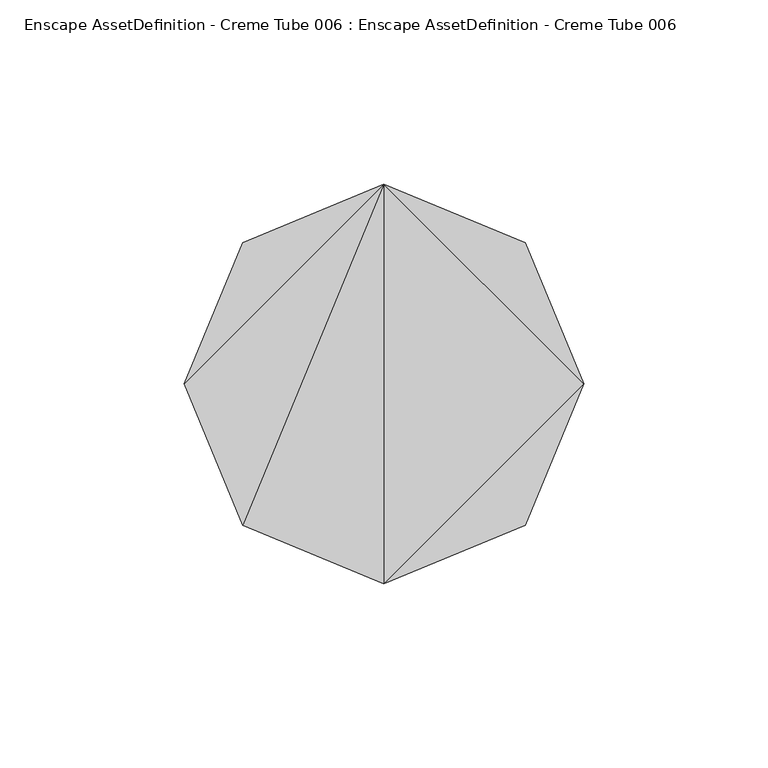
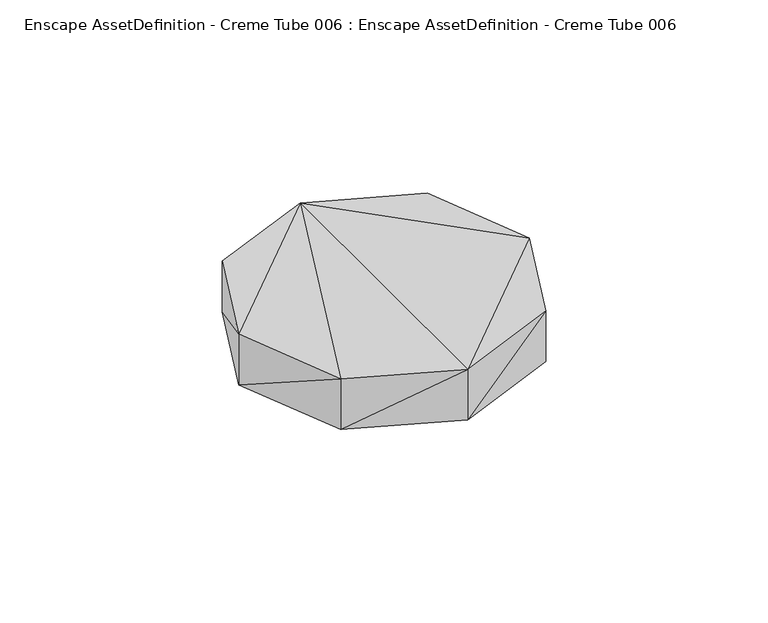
"""IFC4 building model written with IfcOpenShell, lengths in millimetres: geographic element geometry, Enscape AssetDefinition - Creme Tube 006 : Enscape AssetDefinition - Creme Tube 006."""

from ifc_helpers import new_model, si_unit, origin, place, context, project, spatial, faceted_brep, source, transform, mapped, element, save


def enscape_assetdefinition_creme_tube_006_enscape_deb4efeb(model_context):
    return source(origin(), model_context, "Body", "Brep", [
        faceted_brep([(38.2760018, 38.2760018, 20.5979999), (38.2760018, 38.2760018, 0.598), (0.0, 54.1299991, 20.5979999), (0.0, 54.1299991, 0.598), (54.1299991, 0.0, 0.598), (54.1299991, 0.0, 20.5979999), (-54.1299991, 0.0, 0.598), (0.0, -54.1299991, 0.598), (38.2760018, -38.2760018, 0.598), (-38.2760018, 38.2760018, 0.598), (-38.2760018, 38.2760018, 20.5979999), (-54.1299991, 0.0, 20.5979999), (-38.2760018, -38.2760018, 20.5979999), (-38.2760018, -38.2760018, 0.598), (0.0, -54.1299991, 20.5979999), (38.2760018, -38.2760018, 20.5979999)], [[[0, 1, 2]], [[2, 1, 3]], [[0, 4, 1]], [[4, 3, 1]], [[5, 4, 0]], [[2, 5, 0]], [[6, 4, 7]], [[5, 8, 4]], [[4, 6, 9]], [[4, 9, 3]], [[7, 4, 8]], [[2, 3, 10]], [[10, 3, 9]], [[10, 9, 11]], [[11, 9, 6]], [[11, 6, 12]], [[12, 6, 13]], [[6, 7, 13]], [[11, 2, 10]], [[2, 11, 12]], [[12, 13, 14]], [[2, 12, 14]], [[14, 13, 7]], [[14, 7, 15]], [[2, 14, 5]], [[5, 14, 15]], [[15, 8, 5]], [[15, 7, 8]]]),
    ])


if __name__ == "__main__":
    model = new_model("IFC4")
    model_context = context("Model", 3, world=origin())
    ifc_project = project(units=[si_unit("LENGTHUNIT", "METRE", prefix="MILLI")], contexts=[model_context])
    site = spatial("IfcSite", under=ifc_project)
    building = spatial("IfcBuilding", under=site)
    placement = place(None, origin())
    enscape_assetdefinition_creme_tube_006_enscape_shape = enscape_assetdefinition_creme_tube_006_enscape_deb4efeb(model_context)
    element("IfcGeographicElement", 1, ObjectType="Enscape AssetDefinition - Creme Tube 006 : Enscape AssetDefinition - Creme Tube 006", at=placement, inside=building, context=model_context, shape_type="MappedRepresentation", body=[
        mapped(enscape_assetdefinition_creme_tube_006_enscape_shape, transform((0.0, 0.0, 0.0), x_axis=(1.0, 0.0, 0.0), y_axis=(0.0, 1.0, 0.0), z_axis=(0.0, 0.0, 1.0))),
    ])
    save(model, "model.ifc")
